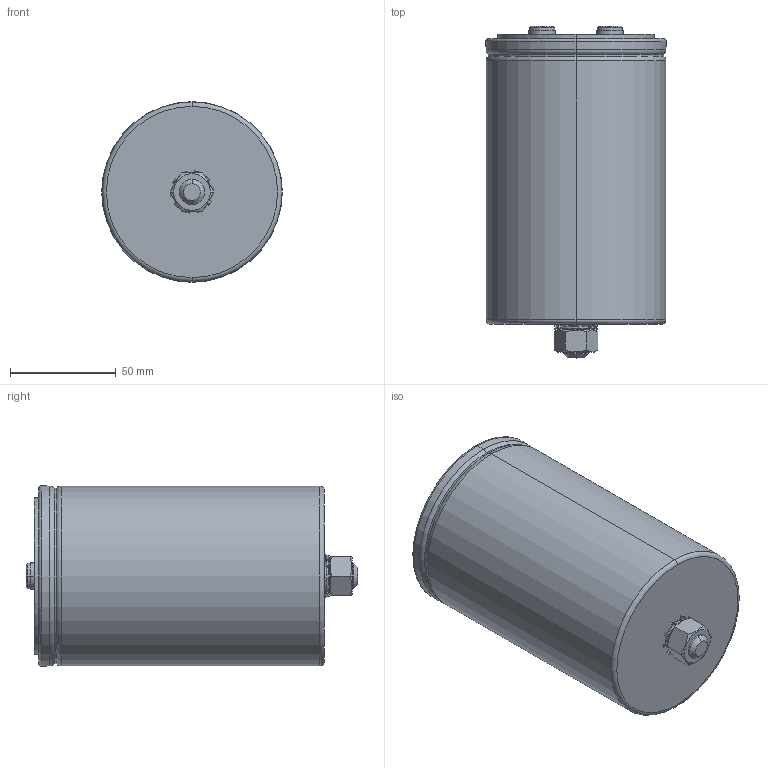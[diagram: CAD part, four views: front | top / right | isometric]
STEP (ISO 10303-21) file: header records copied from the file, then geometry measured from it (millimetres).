
FILE_DESCRIPTION (( 'STEP AP203' ), '1' );
FILE_NAME ('B25620Bx_85x135_141.STEP', '2021-07-01T02:17:25', ( '' ), ( '' ), 'SwSTEP 2.0', 'SolidWorks 2017', '' );
FILE_SCHEMA (( 'CONFIG_CONTROL_DESIGN' ));
Length unit declared in the file: millimetre
Products named in the file (1): B25620Bx_85x135_141
Bounding box: 85.4 x 157 x 85.4 mm (x, y, z)
Volume: 64068.9 mm3; surface area: 101033.4 mm2
Topology: 2 solids, 3 shells, 234 faces, 540 edges, 338 vertices
Faces by surface type: cylinder 85, plane 55, bspline 48, cone 30, torus 16
Entity records: 7453 total; most frequent: CARTESIAN_POINT 2221, ORIENTED_EDGE 1072, DIRECTION 1048, EDGE_CURVE 536, AXIS2_PLACEMENT_3D 423, VERTEX_POINT 338, EDGE_LOOP 266, CIRCLE 236
